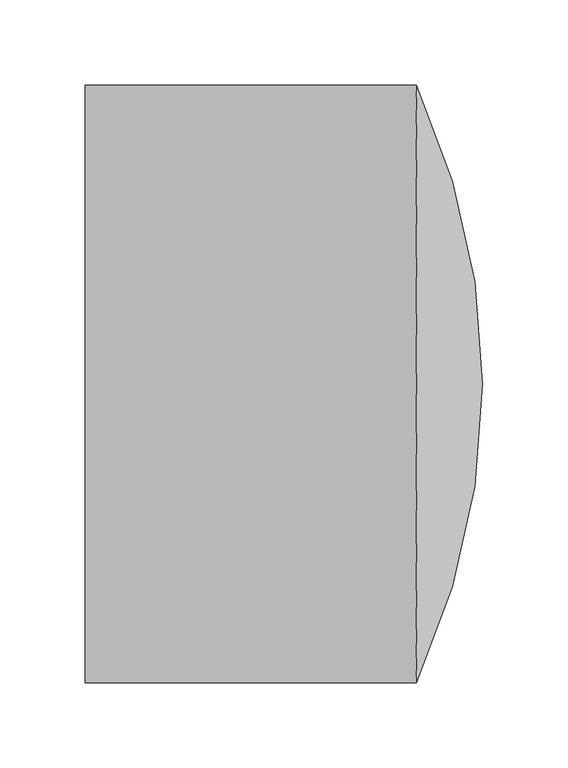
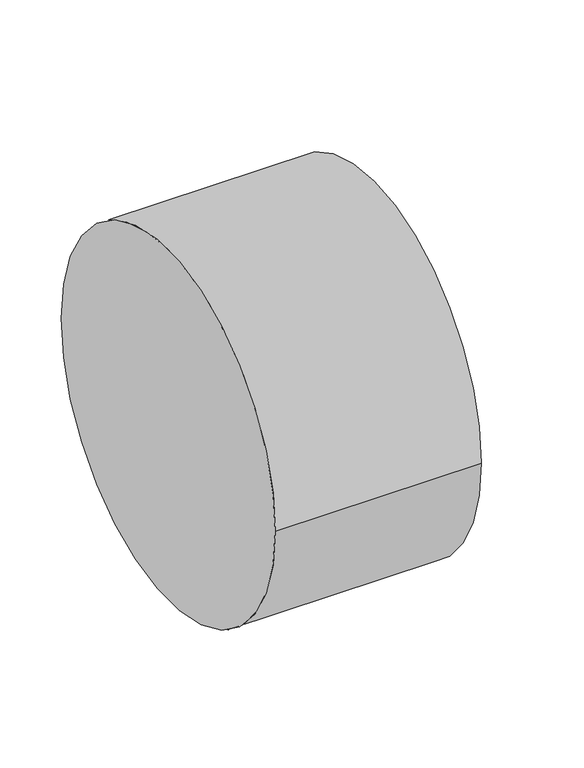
"""IFC4 building model written with IfcOpenShell, lengths in millimetres: pipe fitting geometry, 01051012 : Tampão F."""

from ifc_helpers import new_model, si_unit, point, frame, origin, place, context, project, spatial, circle_curve, ellipse_curve, trimmed, source, transform, mapped, element, save
from ifc_brep_helpers import plane_surface, cylinder_surface, revolved_surface, advanced_brep


def pipe_fitting_cb6de071(model_context):
    return source(origin(), model_context, "Body", "AdvancedBrep", [
        advanced_brep(
        [(194.1666667, 175.0, 0.0), (233.0, 0.0, 0.0), (194.1666667, -175.0, 0.0), (0.0, -175.0, 0.0), (0.0, 175.0, 0.0)],
        [
            (0, 1, circle_curve(frame((-186.7831236, -1.3432233, 0.0), z_axis=(0.0, 0.0, -1.0), x_axis=(1.0, 0.0, 0.0)), 419.7852726)),
            (1, 2, circle_curve(frame((-186.7831236, 1.3432233, 0.0), z_axis=(0.0, 0.0, -1.0), x_axis=(1.0, 0.0, 0.0)), 419.7852726)),
            (2, 0, circle_curve(frame((194.1666667, 0.0, 0.0), z_axis=(1.0, 0.0, 0.0), x_axis=(0.0, 1.0, 0.0)), 175.0)),
            (0, 2, circle_curve(frame((194.1666667, 0.0, 0.0), z_axis=(1.0, 0.0, 0.0), x_axis=(0.0, 1.0, 0.0)), 175.0)),
            (3, 4, circle_curve(frame((0.0, 0.0, 0.0), z_axis=(-1.0, 0.0, 0.0), x_axis=(0.0, 1.0, 0.0)), 175.0)),
            (4, 3, circle_curve(frame((0.0, 0.0, 0.0), z_axis=(-1.0, 0.0, 0.0), x_axis=(0.0, 1.0, 0.0)), 175.0)),
            (3, 2),
            (0, 4),
        ],
        [
            revolved_surface(trimmed(ellipse_curve(frame((-186.7831236, -1.3432233, 0.0), z_axis=(0.0, 0.0, 1.0), x_axis=(1.0, 0.0, 0.0)), 419.7852726, 419.7852726), [point((233.0, 0.0, 0.0))], [point((194.1666667, 175.0, 0.0))], True, "CARTESIAN"), (194.1666667, 0.0, 0.0), (-1.0, 0.0, 0.0)),
            plane_surface(frame((0.0, 0.0, 0.0), z_axis=(-1.0, 0.0, 0.0), x_axis=(0.0, 0.0, 1.0))),
            cylinder_surface(frame((0.0, 0.0, 0.0), z_axis=(-1.0, 0.0, 0.0), x_axis=(0.0, 1.0, 0.0)), 175.0),
        ],
        [
            (0, [[1, 2, 3]]),
            (0, [[-1, 4, -2]]),
            (1, [[5, 6]]),
            (2, [[-5, 7, -4, 8]]),
            (2, [[-6, -8, -3, -7]]),
        ],
    ),
    ])


if __name__ == "__main__":
    model = new_model("IFC4")
    model_context = context("Model", 3, world=origin())
    ifc_project = project(units=[si_unit("LENGTHUNIT", "METRE", prefix="MILLI")], contexts=[model_context])
    site = spatial("IfcSite", under=ifc_project)
    building = spatial("IfcBuilding", under=site)
    placement = place(None, origin())
    pipe_fitting_shape = pipe_fitting_cb6de071(model_context)
    element("IfcPipeFitting", 1, ObjectType="01051012 : Tampão F", at=placement, inside=building, context=model_context, shape_type="MappedRepresentation", body=[
        mapped(pipe_fitting_shape, transform((0.0, 0.0, 0.0), x_axis=(1.0, 0.0, 0.0), y_axis=(0.0, 1.0, 0.0), z_axis=(0.0, 0.0, 1.0))),
    ])
    save(model, "model.ifc")
